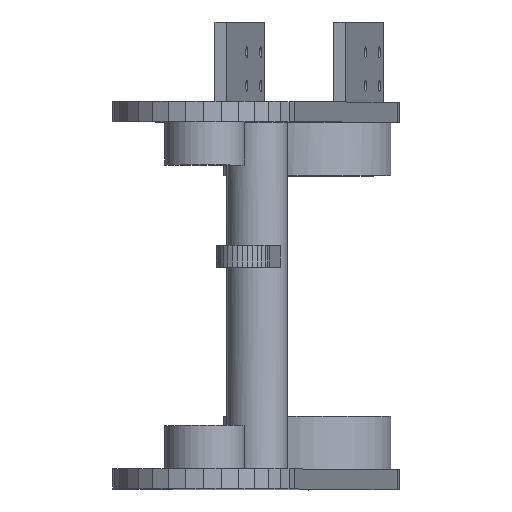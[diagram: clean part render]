
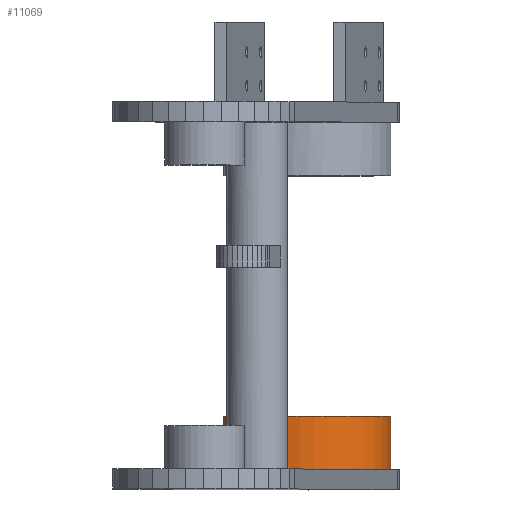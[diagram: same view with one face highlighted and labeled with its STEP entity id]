
A CAD part, top view. The second image highlights one B-rep face of the part: STEP entity #11069.
In plain terms, the highlighted cylindrical face has radius 25 mm (diameter 50 mm), a partial arc.
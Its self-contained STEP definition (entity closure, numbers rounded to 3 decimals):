
#5021 = PLANE('',#5022);
#5022 = AXIS2_PLACEMENT_3D('',#5023,#5024,#5025);
#5023 = CARTESIAN_POINT('',(89.625,-17.8,-284.02));
#5024 = DIRECTION('',(0.,1.,0.));
#5025 = DIRECTION('',(0.,-0.,1.));
#7174 = VERTEX_POINT('',#7175);
#7175 = CARTESIAN_POINT('',(89.427,-17.8,-375.597));
#7196 = CYLINDRICAL_SURFACE('',#7197,3.6);
#7197 = AXIS2_PLACEMENT_3D('',#7198,#7199,#7200);
#7198 = CARTESIAN_POINT('',(93.,-24.8,-376.04));
#7199 = DIRECTION('',(0.,-1.,-0.));
#7200 = DIRECTION('',(1.,0.,0.));
#7262 = CYLINDRICAL_SURFACE('',#7263,3.6);
#7263 = AXIS2_PLACEMENT_3D('',#7264,#7265,#7266);
#7264 = CARTESIAN_POINT('',(117.,-24.8,-376.04));
#7265 = DIRECTION('',(0.,-1.,-0.));
#7266 = DIRECTION('',(1.,0.,0.));
#7275 = VERTEX_POINT('',#7276);
#7276 = CARTESIAN_POINT('',(120.573,-17.8,-375.597));
#7302 = EDGE_CURVE('',#7275,#7174,#7303,.T.);
#7303 = SURFACE_CURVE('',#7304,(#7309,#7320),.PCURVE_S1.);
#7304 = CIRCLE('',#7305,25.);
#7305 = AXIS2_PLACEMENT_3D('',#7306,#7307,#7308);
#7306 = CARTESIAN_POINT('',(105.,-17.8,-356.04));
#7307 = DIRECTION('',(0.,-1.,-0.));
#7308 = DIRECTION('',(-0.397,0.,-0.918));
#7309 = PCURVE('',#5021,#7310);
#7310 = DEFINITIONAL_REPRESENTATION('',(#7311),#7319);
#7311 = ( BOUNDED_CURVE() B_SPLINE_CURVE(2,(#7312,#7313,#7314,#7315,
#7316,#7317,#7318),.UNSPECIFIED.,.T.,.F.) B_SPLINE_CURVE_WITH_KNOTS((1,2
    ,2,2,2,1),(-2.094,0.,2.094,4.189,
6.283,8.378),.UNSPECIFIED.) CURVE() 
GEOMETRIC_REPRESENTATION_ITEM() RATIONAL_B_SPLINE_CURVE((1.,0.5,1.,0.5,
1.,0.5,1.)) REPRESENTATION_ITEM('') );
#7312 = CARTESIAN_POINT('',(-94.964,5.447));
#7313 = CARTESIAN_POINT('',(-112.16,45.187));
#7314 = CARTESIAN_POINT('',(-69.146,40.209));
#7315 = CARTESIAN_POINT('',(-26.132,35.231));
#7316 = CARTESIAN_POINT('',(-51.95,0.469));
#7317 = CARTESIAN_POINT('',(-77.768,-34.294));
#7318 = CARTESIAN_POINT('',(-94.964,5.447));
#7319 = ( GEOMETRIC_REPRESENTATION_CONTEXT(2) 
PARAMETRIC_REPRESENTATION_CONTEXT() REPRESENTATION_CONTEXT('2D SPACE',''
  ) );
#7320 = PCURVE('',#7321,#7326);
#7321 = CYLINDRICAL_SURFACE('',#7322,25.);
#7322 = AXIS2_PLACEMENT_3D('',#7323,#7324,#7325);
#7323 = CARTESIAN_POINT('',(105.,-17.8,-356.04));
#7324 = DIRECTION('',(0.,-1.,-0.));
#7325 = DIRECTION('',(1.,0.,0.));
#7326 = DEFINITIONAL_REPRESENTATION('',(#7327),#7331);
#7327 = LINE('',#7328,#7329);
#7328 = CARTESIAN_POINT('',(-8.262,0.));
#7329 = VECTOR('',#7330,1.);
#7330 = DIRECTION('',(1.,-0.));
#7331 = ( GEOMETRIC_REPRESENTATION_CONTEXT(2) 
PARAMETRIC_REPRESENTATION_CONTEXT() REPRESENTATION_CONTEXT('2D SPACE',''
  ) );
#10904 = EDGE_CURVE('',#10905,#7174,#10907,.T.);
#10905 = VERTEX_POINT('',#10906);
#10906 = CARTESIAN_POINT('',(89.427,-1.8,-375.597));
#10907 = SURFACE_CURVE('',#10908,(#10912,#10918),.PCURVE_S1.);
#10908 = LINE('',#10909,#10910);
#10909 = CARTESIAN_POINT('',(89.427,-17.8,-375.597));
#10910 = VECTOR('',#10911,1.);
#10911 = DIRECTION('',(0.,-1.,-0.));
#10912 = PCURVE('',#7196,#10913);
#10913 = DEFINITIONAL_REPRESENTATION('',(#10914),#10917);
#10914 = B_SPLINE_CURVE_WITH_KNOTS('',1,(#10915,#10916),.UNSPECIFIED.,
  .F.,.F.,(2,2),(-16.,0.),
  .PIECEWISE_BEZIER_KNOTS.);
#10915 = CARTESIAN_POINT('',(-3.265,-23.));
#10916 = CARTESIAN_POINT('',(-3.265,-7.));
#10917 = ( GEOMETRIC_REPRESENTATION_CONTEXT(2) 
PARAMETRIC_REPRESENTATION_CONTEXT() REPRESENTATION_CONTEXT('2D SPACE',''
  ) );
#10918 = PCURVE('',#7321,#10919);
#10919 = DEFINITIONAL_REPRESENTATION('',(#10920),#10923);
#10920 = B_SPLINE_CURVE_WITH_KNOTS('',1,(#10921,#10922),.UNSPECIFIED.,
  .F.,.F.,(2,2),(-16.,-0.),.PIECEWISE_BEZIER_KNOTS.);
#10921 = CARTESIAN_POINT('',(-2.243,-16.));
#10922 = CARTESIAN_POINT('',(-2.243,0.));
#10923 = ( GEOMETRIC_REPRESENTATION_CONTEXT(2) 
PARAMETRIC_REPRESENTATION_CONTEXT() REPRESENTATION_CONTEXT('2D SPACE',''
  ) );
#10942 = PLANE('',#10943);
#10943 = AXIS2_PLACEMENT_3D('',#10944,#10945,#10946);
#10944 = CARTESIAN_POINT('',(105.,-1.8,-356.04));
#10945 = DIRECTION('',(0.,1.,0.));
#10946 = DIRECTION('',(0.,-0.,1.));
#11069 = ADVANCED_FACE('',(#11070),#7321,.T.);
#11070 = FACE_BOUND('',#11071,.F.);
#11071 = EDGE_LOOP('',(#11072,#11093,#11094,#11095));
#11072 = ORIENTED_EDGE('',*,*,#11073,.T.);
#11073 = EDGE_CURVE('',#11074,#7275,#11076,.T.);
#11074 = VERTEX_POINT('',#11075);
#11075 = CARTESIAN_POINT('',(120.573,-1.8,-375.597));
#11076 = SURFACE_CURVE('',#11077,(#11081,#11087),.PCURVE_S1.);
#11077 = LINE('',#11078,#11079);
#11078 = CARTESIAN_POINT('',(120.573,-17.8,-375.597));
#11079 = VECTOR('',#11080,1.);
#11080 = DIRECTION('',(0.,-1.,-0.));
#11081 = PCURVE('',#7321,#11082);
#11082 = DEFINITIONAL_REPRESENTATION('',(#11083),#11086);
#11083 = B_SPLINE_CURVE_WITH_KNOTS('',1,(#11084,#11085),.UNSPECIFIED.,
  .F.,.F.,(2,2),(-16.,0.),
  .PIECEWISE_BEZIER_KNOTS.);
#11084 = CARTESIAN_POINT('',(-7.182,-16.));
#11085 = CARTESIAN_POINT('',(-7.182,0.));
#11086 = ( GEOMETRIC_REPRESENTATION_CONTEXT(2) 
PARAMETRIC_REPRESENTATION_CONTEXT() REPRESENTATION_CONTEXT('2D SPACE',''
  ) );
#11087 = PCURVE('',#7262,#11088);
#11088 = DEFINITIONAL_REPRESENTATION('',(#11089),#11092);
#11089 = B_SPLINE_CURVE_WITH_KNOTS('',1,(#11090,#11091),.UNSPECIFIED.,
  .F.,.F.,(2,2),(-16.,0.),
  .PIECEWISE_BEZIER_KNOTS.);
#11090 = CARTESIAN_POINT('',(-6.16,-23.));
#11091 = CARTESIAN_POINT('',(-6.16,-7.));
#11092 = ( GEOMETRIC_REPRESENTATION_CONTEXT(2) 
PARAMETRIC_REPRESENTATION_CONTEXT() REPRESENTATION_CONTEXT('2D SPACE',''
  ) );
#11093 = ORIENTED_EDGE('',*,*,#7302,.T.);
#11094 = ORIENTED_EDGE('',*,*,#10904,.F.);
#11095 = ORIENTED_EDGE('',*,*,#11096,.F.);
#11096 = EDGE_CURVE('',#11074,#10905,#11097,.T.);
#11097 = SURFACE_CURVE('',#11098,(#11103,#11110),.PCURVE_S1.);
#11098 = CIRCLE('',#11099,25.);
#11099 = AXIS2_PLACEMENT_3D('',#11100,#11101,#11102);
#11100 = CARTESIAN_POINT('',(105.,-1.8,-356.04));
#11101 = DIRECTION('',(0.,-1.,-0.));
#11102 = DIRECTION('',(-0.397,0.,-0.918));
#11103 = PCURVE('',#7321,#11104);
#11104 = DEFINITIONAL_REPRESENTATION('',(#11105),#11109);
#11105 = LINE('',#11106,#11107);
#11106 = CARTESIAN_POINT('',(-8.262,-16.));
#11107 = VECTOR('',#11108,1.);
#11108 = DIRECTION('',(1.,-0.));
#11109 = ( GEOMETRIC_REPRESENTATION_CONTEXT(2) 
PARAMETRIC_REPRESENTATION_CONTEXT() REPRESENTATION_CONTEXT('2D SPACE',''
  ) );
#11110 = PCURVE('',#10942,#11111);
#11111 = DEFINITIONAL_REPRESENTATION('',(#11112),#11120);
#11112 = ( BOUNDED_CURVE() B_SPLINE_CURVE(2,(#11113,#11114,#11115,#11116
    ,#11117,#11118,#11119),.UNSPECIFIED.,.T.,.F.) 
B_SPLINE_CURVE_WITH_KNOTS((1,2,2,2,2,1),(-2.094,0.,
    2.094,4.189,6.283,8.378),
.UNSPECIFIED.) CURVE() GEOMETRIC_REPRESENTATION_ITEM() 
RATIONAL_B_SPLINE_CURVE((1.,0.5,1.,0.5,1.,0.5,1.)) REPRESENTATION_ITEM(
  '') );
#11113 = CARTESIAN_POINT('',(-22.944,-9.928));
#11114 = CARTESIAN_POINT('',(-40.14,29.812));
#11115 = CARTESIAN_POINT('',(2.874,24.834));
#11116 = CARTESIAN_POINT('',(45.888,19.856));
#11117 = CARTESIAN_POINT('',(20.07,-14.906));
#11118 = CARTESIAN_POINT('',(-5.748,-49.669));
#11119 = CARTESIAN_POINT('',(-22.944,-9.928));
#11120 = ( GEOMETRIC_REPRESENTATION_CONTEXT(2) 
PARAMETRIC_REPRESENTATION_CONTEXT() REPRESENTATION_CONTEXT('2D SPACE',''
  ) );
